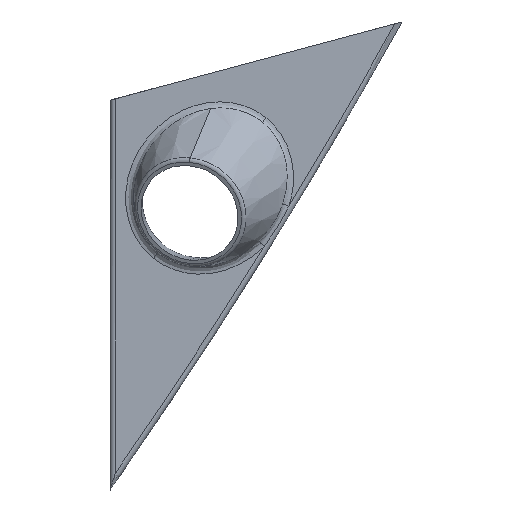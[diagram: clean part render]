
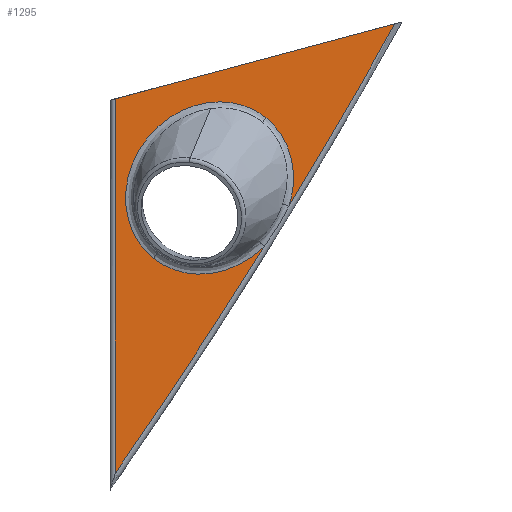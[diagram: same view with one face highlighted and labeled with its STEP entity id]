
A CAD part, front view. The second image highlights one B-rep face of the part: STEP entity #1295.
In plain terms, the highlighted planar face has unit normal (0, -1, 0).
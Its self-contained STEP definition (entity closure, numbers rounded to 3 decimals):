
#3 = EDGE_CURVE ( 'NONE', #133, #96, #150, .T. ) ;
#9 = CARTESIAN_POINT ( 'NONE',  ( 2., 0., 998.433 ) ) ;
#73 = EDGE_CURVE ( 'NONE', #466, #1665, #357, .T. ) ;
#86 = EDGE_CURVE ( 'NONE', #453, #1699, #849, .T. ) ;
#96 = VERTEX_POINT ( 'NONE', #1045 ) ;
#99 = DIRECTION ( 'NONE',  ( 0., 0., 1. ) ) ;
#122 = CARTESIAN_POINT ( 'NONE',  ( 67.526, 0., -39.854 ) ) ;
#133 = VERTEX_POINT ( 'NONE', #1217 ) ;
#150 = LINE ( 'NONE', #9, #237 ) ;
#219 = CARTESIAN_POINT ( 'NONE',  ( 107.43, 0., 28.786 ) ) ;
#221 = CARTESIAN_POINT ( 'NONE',  ( 58.156, 0., -55.107 ) ) ;
#237 = VECTOR ( 'NONE', #867, 1000. ) ;
#242 = ORIENTED_EDGE ( 'NONE', *, *, #86, .T. ) ;
#304 = ORIENTED_EDGE ( 'NONE', *, *, #1389, .F. ) ;
#357 =( BOUNDED_CURVE ( )  B_SPLINE_CURVE ( 3, ( #221, #774, #513, #655 ),
 .UNSPECIFIED., .F., .T. ) 
 B_SPLINE_CURVE_WITH_KNOTS ( ( 4, 4 ),
 ( 1.696, 3.142 ),
 .UNSPECIFIED. ) 
 CURVE ( )  GEOMETRIC_REPRESENTATION_ITEM ( )  RATIONAL_B_SPLINE_CURVE ( ( 1., 0.833, 0.833, 1. ) ) 
 REPRESENTATION_ITEM ( '' )  );
#453 = VERTEX_POINT ( 'NONE', #1513 ) ;
#466 = VERTEX_POINT ( 'NONE', #1073 ) ;
#499 = VECTOR ( 'NONE', #1076, 1000. ) ;
#508 = DIRECTION ( 'NONE',  ( 0., 0., 1. ) ) ;
#513 = CARTESIAN_POINT ( 'NONE',  ( 28.691, 0., -69.544 ) ) ;
#530 = DIRECTION ( 'NONE',  ( 0., -1., 0. ) ) ;
#655 = CARTESIAN_POINT ( 'NONE',  ( 16.283, 0., -59.577 ) ) ;
#670 = CARTESIAN_POINT ( 'NONE',  ( -1639.507, 0., 998.433 ) ) ;
#672 = EDGE_CURVE ( 'NONE', #96, #466, #1411, .T. ) ;
#693 = CARTESIAN_POINT ( 'NONE',  ( 11.911, 0., 31.051 ) ) ;
#719 = ORIENTED_EDGE ( 'NONE', *, *, #1118, .T. ) ;
#742 = EDGE_LOOP ( 'NONE', ( #1211, #762, #719, #767, #242, #304, #1132 ) ) ;
#762 = ORIENTED_EDGE ( 'NONE', *, *, #73, .T. ) ;
#767 = ORIENTED_EDGE ( 'NONE', *, *, #1520, .T. ) ;
#771 = PLANE ( 'NONE',  #1709 ) ;
#774 = CARTESIAN_POINT ( 'NONE',  ( 45.439, 0., -67.756 ) ) ;
#844 = CARTESIAN_POINT ( 'NONE',  ( 68.449, 0., -14.365 ) ) ;
#849 = CIRCLE ( 'NONE', #1788, 1998. ) ;
#867 = DIRECTION ( 'NONE',  ( 0., 0., -1. ) ) ;
#901 = DIRECTION ( 'NONE',  ( 0., 1., 0. ) ) ;
#953 = LINE ( 'NONE', #1089, #499 ) ;
#963 = CARTESIAN_POINT ( 'NONE',  ( 58.816, 0., -6.627 ) ) ;
#973 = CARTESIAN_POINT ( 'NONE',  ( -30.623, 0., -21.898 ) ) ;
#991 = DIRECTION ( 'NONE',  ( 0., 0., 1. ) ) ;
#994 = DIRECTION ( 'NONE',  ( 0., -1., 0. ) ) ;
#1024 =( BOUNDED_CURVE ( )  B_SPLINE_CURVE ( 3, ( #1104, #973, #693, #1239 ),
 .UNSPECIFIED., .F., .T. ) 
 B_SPLINE_CURVE_WITH_KNOTS ( ( 4, 4 ),
 ( 3.142, 6.283 ),
 .UNSPECIFIED. ) 
 CURVE ( )  GEOMETRIC_REPRESENTATION_ITEM ( )  RATIONAL_B_SPLINE_CURVE ( ( 1., 0.333, 0.333, 1. ) ) 
 REPRESENTATION_ITEM ( '' )  );
#1045 = CARTESIAN_POINT ( 'NONE',  ( 2., 0., -140.627 ) ) ;
#1073 = CARTESIAN_POINT ( 'NONE',  ( 58.156, 0., -55.107 ) ) ;
#1076 = DIRECTION ( 'NONE',  ( 0.966, 0., 0.259 ) ) ;
#1089 = CARTESIAN_POINT ( 'NONE',  ( 0., 0., 0. ) ) ;
#1104 = CARTESIAN_POINT ( 'NONE',  ( 16.283, 0., -59.577 ) ) ;
#1118 = EDGE_CURVE ( 'NONE', #1665, #1446, #1024, .T. ) ;
#1132 = ORIENTED_EDGE ( 'NONE', *, *, #3, .T. ) ;
#1211 = ORIENTED_EDGE ( 'NONE', *, *, #672, .T. ) ;
#1217 = CARTESIAN_POINT ( 'NONE',  ( 2., 0., 0.536 ) ) ;
#1239 = CARTESIAN_POINT ( 'NONE',  ( 58.816, 0., -6.627 ) ) ;
#1266 = AXIS2_PLACEMENT_3D ( 'NONE', #1679, #994, #991 ) ;
#1294 = FACE_OUTER_BOUND ( 'NONE', #742, .T. ) ;
#1295 = ADVANCED_FACE ( 'NONE', ( #1294 ), #771, .F. ) ;
#1389 = EDGE_CURVE ( 'NONE', #133, #1699, #953, .T. ) ;
#1411 = CIRCLE ( 'NONE', #1266, 1998. ) ;
#1446 = VERTEX_POINT ( 'NONE', #1485 ) ;
#1485 = CARTESIAN_POINT ( 'NONE',  ( 58.816, 0., -6.627 ) ) ;
#1513 = CARTESIAN_POINT ( 'NONE',  ( 67.526, 0., -39.854 ) ) ;
#1519 =( BOUNDED_CURVE ( )  B_SPLINE_CURVE ( 3, ( #963, #844, #1779, #122 ),
 .UNSPECIFIED., .F., .T. ) 
 B_SPLINE_CURVE_WITH_KNOTS ( ( 4, 4 ),
 ( 0., 1.162 ),
 .UNSPECIFIED. ) 
 CURVE ( )  GEOMETRIC_REPRESENTATION_ITEM ( )  RATIONAL_B_SPLINE_CURVE ( ( 1., 0.891, 0.891, 1. ) ) 
 REPRESENTATION_ITEM ( '' )  );
#1520 = EDGE_CURVE ( 'NONE', #1446, #453, #1519, .T. ) ;
#1665 = VERTEX_POINT ( 'NONE', #1798 ) ;
#1679 = CARTESIAN_POINT ( 'NONE',  ( -1639.507, 0., 998.433 ) ) ;
#1699 = VERTEX_POINT ( 'NONE', #219 ) ;
#1709 = AXIS2_PLACEMENT_3D ( 'NONE', #1726, #901, #508 ) ;
#1726 = CARTESIAN_POINT ( 'NONE',  ( -1639.507, 0., 998.433 ) ) ;
#1779 = CARTESIAN_POINT ( 'NONE',  ( 71.708, 0., -26.8 ) ) ;
#1788 = AXIS2_PLACEMENT_3D ( 'NONE', #670, #530, #99 ) ;
#1798 = CARTESIAN_POINT ( 'NONE',  ( 16.283, 0., -59.577 ) ) ;
